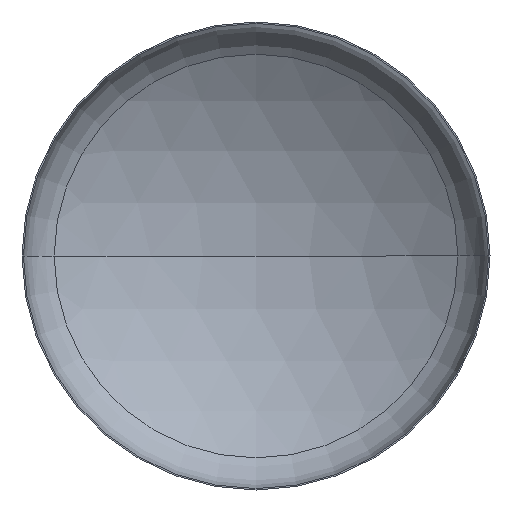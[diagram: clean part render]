
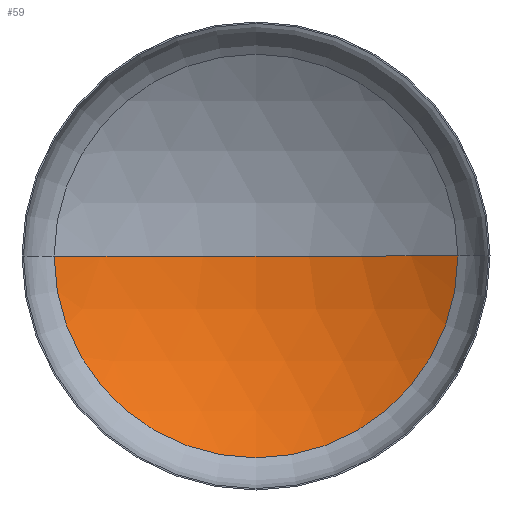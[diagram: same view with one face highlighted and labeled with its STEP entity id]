
A CAD part, front view. The second image highlights one B-rep face of the part: STEP entity #59.
In plain terms, the highlighted spherical face has radius 794 mm.
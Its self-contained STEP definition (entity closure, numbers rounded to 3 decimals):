
#33 = DIRECTION ( 'NONE',  ( 1., 0., 0. ) ) ;
#49 = CARTESIAN_POINT ( 'NONE',  ( 0., 252., 0. ) ) ;
#57 = DIRECTION ( 'NONE',  ( -1., 0., 0. ) ) ;
#59 = ADVANCED_FACE ( 'NONE', ( #303 ), #108, .F. ) ;
#65 = DIRECTION ( 'NONE',  ( 0., 0., 1. ) ) ;
#72 = VERTEX_POINT ( 'NONE', #49 ) ;
#78 = DIRECTION ( 'NONE',  ( -1., 0., 0. ) ) ;
#91 = CARTESIAN_POINT ( 'NONE',  ( 0., -542., 0. ) ) ;
#95 = CARTESIAN_POINT ( 'NONE',  ( 0., 124.708, 0. ) ) ;
#98 = AXIS2_PLACEMENT_3D ( 'NONE', #91, #65, #33 ) ;
#100 = VERTEX_POINT ( 'NONE', #405 ) ;
#108 = SPHERICAL_SURFACE ( 'NONE', #116, 794. ) ;
#116 = AXIS2_PLACEMENT_3D ( 'NONE', #365, #149, #78 ) ;
#118 = VERTEX_POINT ( 'NONE', #146 ) ;
#126 = CIRCLE ( 'NONE', #194, 431.203 ) ;
#128 = DIRECTION ( 'NONE',  ( -1., 0., 0. ) ) ;
#146 = CARTESIAN_POINT ( 'NONE',  ( -431.203, 124.708, 0. ) ) ;
#149 = DIRECTION ( 'NONE',  ( 0., 0., 1. ) ) ;
#161 = EDGE_CURVE ( 'NONE', #118, #72, #338, .T. ) ;
#165 = ORIENTED_EDGE ( 'NONE', *, *, #333, .T. ) ;
#194 = AXIS2_PLACEMENT_3D ( 'NONE', #95, #249, #128 ) ;
#218 = CARTESIAN_POINT ( 'NONE',  ( 0., -542., 0. ) ) ;
#243 = EDGE_CURVE ( 'NONE', #100, #118, #126, .T. ) ;
#249 = DIRECTION ( 'NONE',  ( 0., 1., 0. ) ) ;
#261 = AXIS2_PLACEMENT_3D ( 'NONE', #218, #277, #57 ) ;
#277 = DIRECTION ( 'NONE',  ( 0., 0., -1. ) ) ;
#278 = CIRCLE ( 'NONE', #98, 794. ) ;
#293 = ORIENTED_EDGE ( 'NONE', *, *, #161, .F. ) ;
#303 = FACE_OUTER_BOUND ( 'NONE', #325, .T. ) ;
#325 = EDGE_LOOP ( 'NONE', ( #403, #165, #293 ) ) ;
#333 = EDGE_CURVE ( 'NONE', #100, #72, #278, .T. ) ;
#338 = CIRCLE ( 'NONE', #261, 794. ) ;
#365 = CARTESIAN_POINT ( 'NONE',  ( 0., -542., 0. ) ) ;
#403 = ORIENTED_EDGE ( 'NONE', *, *, #243, .F. ) ;
#405 = CARTESIAN_POINT ( 'NONE',  ( 431.203, 124.708, 0. ) ) ;
